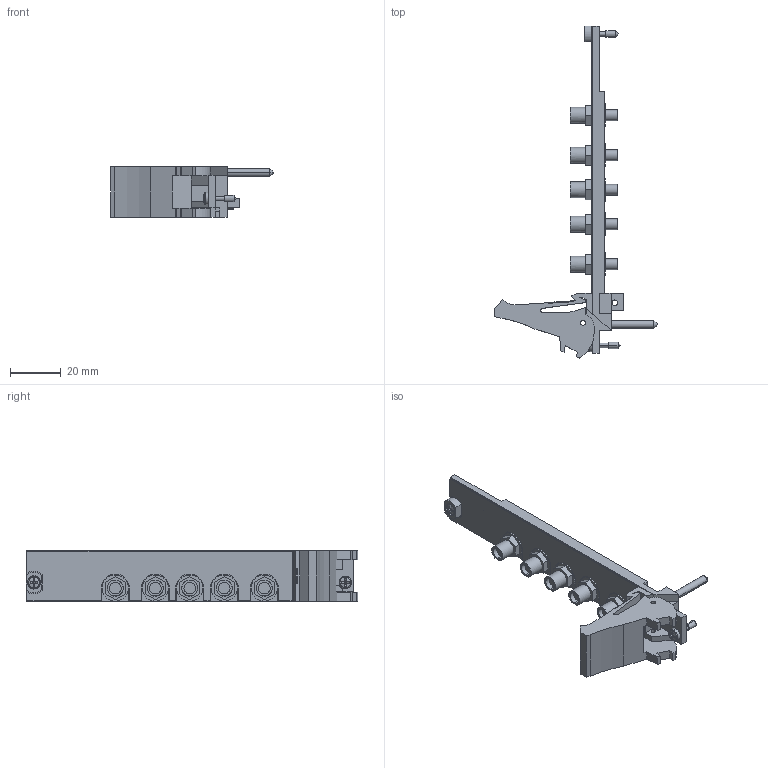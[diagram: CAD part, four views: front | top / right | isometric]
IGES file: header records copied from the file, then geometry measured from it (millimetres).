
Start section:  PTC IGES file: cu_pxi-2545.igs
Global section: file name: cu_pxi-2545.igs; native system: Pro/ENGINEER by Parametric Technology Corporation; preprocessor: 2006080; author: jjorden; organization: Unknown; date: 091110.103849; units: inch
Bounding box: 63.73 x 130.43 x 20.02 mm (x, y, z)
Surface area: 15191.4 mm2 (no closed solid volume)
Topology: 0 solids, 0 shells, 541 faces, 2778 edges, 2774 vertices
Faces by surface type: bspline 344, revolution 197
